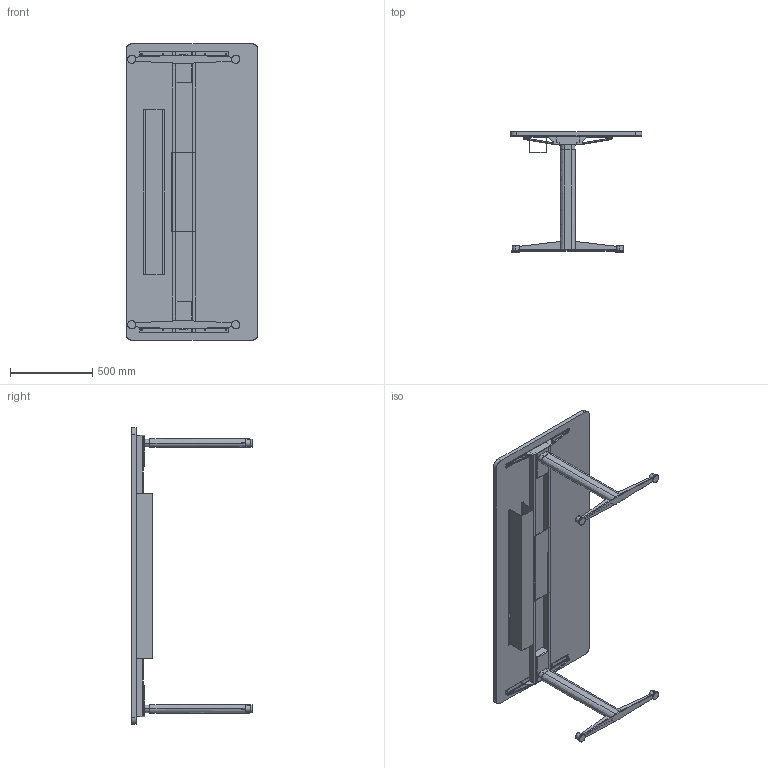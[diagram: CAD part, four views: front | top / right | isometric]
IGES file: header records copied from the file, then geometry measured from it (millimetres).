
Start section: SolidWorks IGES file using analytic representation for surfaces
Global section: file name: C:\Users\simone.cerana\OneDrive - Gruppo Tecno\Desktop\CHINA\DISEGNI DI SERIE\ASSIEMI LISTINO\AXIS LISTINO\FULL OPT\AX1808FO.IGS; native system: SolidWorks 2024; preprocessor: SolidWorks 2024; author: simone.cerana; date: 260512.103517; units: millimetre
Bounding box: 800 x 730.14 x 1800 mm (x, y, z)
Surface area: 4784629.9 mm2 (no closed solid volume)
Topology: 0 solids, 0 shells, 330 faces, 4480 edges, 4476 vertices
Faces by surface type: bspline 194, revolution 136
